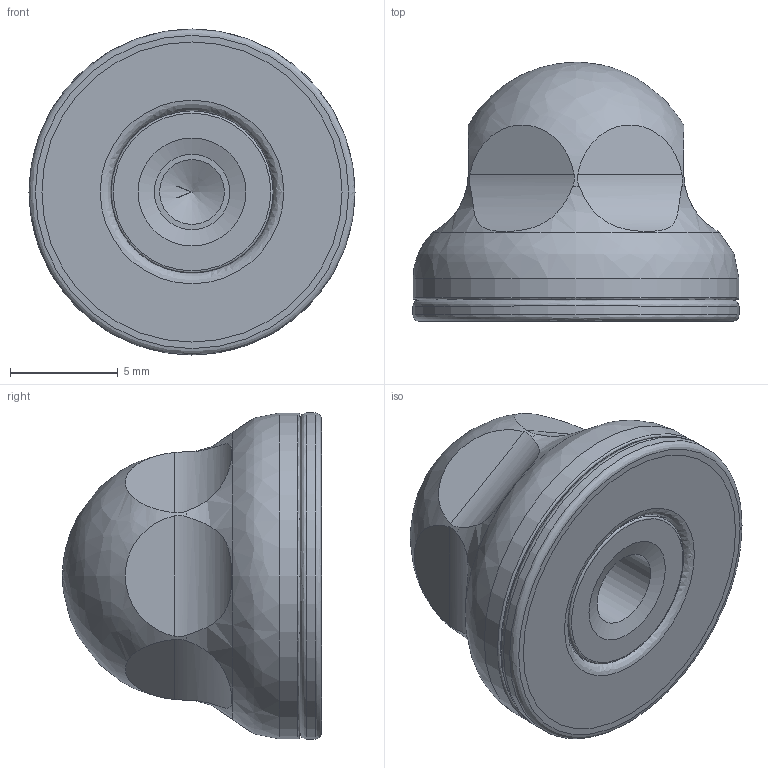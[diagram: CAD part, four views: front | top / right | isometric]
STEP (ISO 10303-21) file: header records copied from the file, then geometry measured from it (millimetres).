
FILE_DESCRIPTION(('STEP AP203'),'2;1');
FILE_NAME('DDM4I-3A.stp','2017-12-01T16:05:06',(''),(''),'2014.1.117','THINKDESIGN','');
FILE_SCHEMA(('CONFIG_CONTROL_DESIGN'));
Length unit declared in the file: millimetre
Bounding box: 15.1 x 12 x 15.1 mm (x, y, z)
Volume: 1214.5 mm3; surface area: 1275.9 mm2
Topology: 2 solids, 2 shells, 43 faces, 121 edges, 88 vertices
Faces by surface type: plane 15, bspline 14, cylinder 14
Full cylindrical faces by diameter (mm): 3 x1, 3.5 x1, 7.5 x1, 7.505 x1, 11.5 x1, 11.505 x1, 15.1 x1, 15.105 x1
Entity records: 2092 total; most frequent: CARTESIAN_POINT 809, ORIENTED_EDGE 236, DIRECTION 227, EDGE_CURVE 118, AXIS2_PLACEMENT_3D 105, VERTEX_POINT 86, CIRCLE 76, EDGE_LOOP 52
